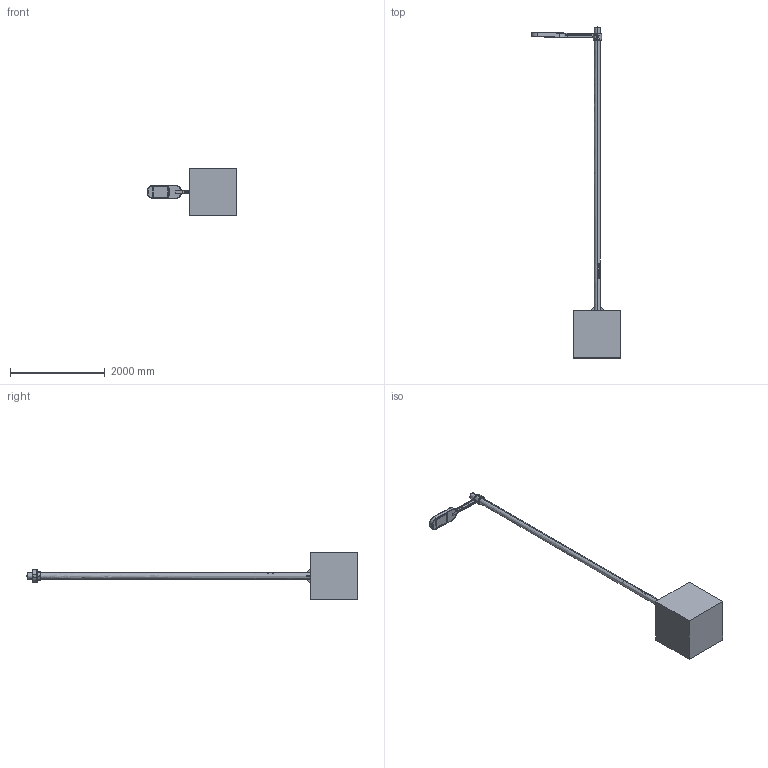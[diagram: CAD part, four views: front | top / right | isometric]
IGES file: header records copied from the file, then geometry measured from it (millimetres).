
Start section: SolidWorks IGES file using analytic representation for surfaces
Global section: file name: C:\SANTACOLE_PDM\Proyectos Catálogo\PROD-P11_014 -- CANDELA LED\6_Técnico comercial\3D WEB\IGES\Farola Candela LED 600cm 1S 1L BRAZO CORTO.IGS; native system: SolidWorks 2013; preprocessor: SolidWorks 2013; author: jordi.munoz; date: 150527.155556; units: millimetre
Bounding box: 1901.41 x 7024.5 x 1000 mm (x, y, z)
Surface area: 12704108.6 mm2 (no closed solid volume)
Topology: 0 solids, 0 shells, 2369 faces, 22789 edges, 22760 vertices
Faces by surface type: bspline 1722, revolution 647
